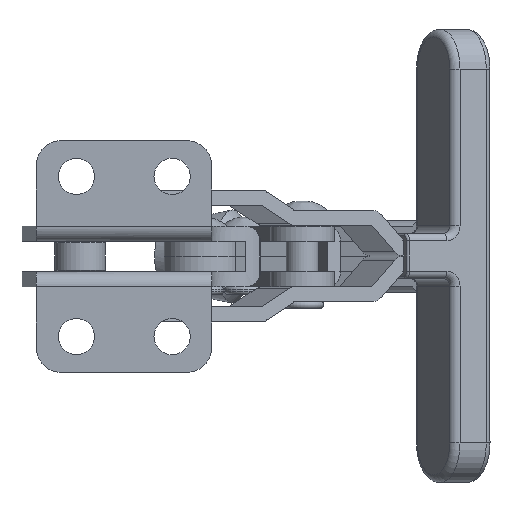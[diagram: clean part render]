
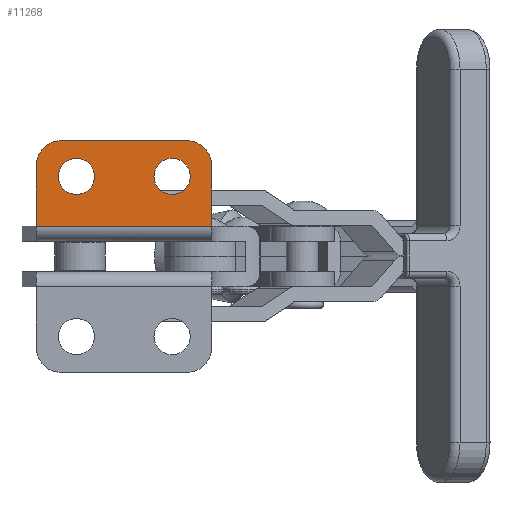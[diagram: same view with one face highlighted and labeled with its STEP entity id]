
A CAD part, front view. The second image highlights one B-rep face of the part: STEP entity #11268.
In plain terms, the highlighted planar face has unit normal (0, -1, 0).
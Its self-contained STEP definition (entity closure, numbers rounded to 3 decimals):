
#764=FACE_BOUND('',#1775,.T.);
#765=FACE_BOUND('',#1776,.T.);
#843=PLANE('',#12152);
#1138=FACE_OUTER_BOUND('',#1774,.T.);
#1774=EDGE_LOOP('',(#7796,#7797,#7798,#7799,#7800,#7801));
#1775=EDGE_LOOP('',(#7802,#7803));
#1776=EDGE_LOOP('',(#7804,#7805));
#2489=LINE('',#15814,#3451);
#2499=LINE('',#15837,#3461);
#2502=LINE('',#15842,#3464);
#2503=LINE('',#15846,#3465);
#3451=VECTOR('',#13110,1000.);
#3461=VECTOR('',#13138,1000.);
#3464=VECTOR('',#13143,1000.);
#3465=VECTOR('',#13146,1000.);
#4377=CIRCLE('',#12080,3.6);
#4378=CIRCLE('',#12081,3.6);
#4381=CIRCLE('',#12085,3.6);
#4382=CIRCLE('',#12086,3.6);
#4428=CIRCLE('',#12153,5.);
#4429=CIRCLE('',#12154,5.);
#4731=VERTEX_POINT('',#15593);
#4732=VERTEX_POINT('',#15594);
#4735=VERTEX_POINT('',#15603);
#4736=VERTEX_POINT('',#15604);
#4815=VERTEX_POINT('',#15812);
#4816=VERTEX_POINT('',#15813);
#4819=VERTEX_POINT('',#15834);
#4820=VERTEX_POINT('',#15836);
#4822=VERTEX_POINT('',#15843);
#4823=VERTEX_POINT('',#15845);
#5898=EDGE_CURVE('',#4731,#4732,#4377,.T.);
#5899=EDGE_CURVE('',#4732,#4731,#4378,.T.);
#5903=EDGE_CURVE('',#4735,#4736,#4381,.T.);
#5904=EDGE_CURVE('',#4736,#4735,#4382,.T.);
#5994=EDGE_CURVE('',#4815,#4816,#2489,.T.);
#6006=EDGE_CURVE('',#4820,#4819,#2499,.T.);
#6009=EDGE_CURVE('',#4819,#4816,#2502,.T.);
#6010=EDGE_CURVE('',#4815,#4822,#4428,.T.);
#6011=EDGE_CURVE('',#4823,#4822,#2503,.T.);
#6012=EDGE_CURVE('',#4823,#4820,#4429,.T.);
#7796=ORIENTED_EDGE('',*,*,#6006,.T.);
#7797=ORIENTED_EDGE('',*,*,#6009,.T.);
#7798=ORIENTED_EDGE('',*,*,#5994,.F.);
#7799=ORIENTED_EDGE('',*,*,#6010,.T.);
#7800=ORIENTED_EDGE('',*,*,#6011,.F.);
#7801=ORIENTED_EDGE('',*,*,#6012,.T.);
#7802=ORIENTED_EDGE('',*,*,#5903,.T.);
#7803=ORIENTED_EDGE('',*,*,#5904,.T.);
#7804=ORIENTED_EDGE('',*,*,#5898,.T.);
#7805=ORIENTED_EDGE('',*,*,#5899,.T.);
#11268=ADVANCED_FACE('',(#1138,#764,#765),#843,.F.);
#12080=AXIS2_PLACEMENT_3D('',#15595,#12942,#12943);
#12081=AXIS2_PLACEMENT_3D('',#15596,#12944,#12945);
#12085=AXIS2_PLACEMENT_3D('',#15605,#12953,#12954);
#12086=AXIS2_PLACEMENT_3D('',#15606,#12955,#12956);
#12152=AXIS2_PLACEMENT_3D('',#15841,#13141,#13142);
#12153=AXIS2_PLACEMENT_3D('',#15844,#13144,#13145);
#12154=AXIS2_PLACEMENT_3D('',#15847,#13147,#13148);
#12942=DIRECTION('center_axis',(0.,1.,0.));
#12943=DIRECTION('ref_axis',(-1.,0.,0.));
#12944=DIRECTION('center_axis',(0.,1.,0.));
#12945=DIRECTION('ref_axis',(-1.,0.,0.));
#12953=DIRECTION('center_axis',(0.,1.,0.));
#12954=DIRECTION('ref_axis',(-1.,0.,0.));
#12955=DIRECTION('center_axis',(0.,1.,0.));
#12956=DIRECTION('ref_axis',(-1.,0.,0.));
#13110=DIRECTION('',(0.,0.,-1.));
#13138=DIRECTION('',(0.,0.,-1.));
#13141=DIRECTION('center_axis',(0.,1.,0.));
#13142=DIRECTION('ref_axis',(-1.,0.,0.));
#13143=DIRECTION('',(1.,0.,0.));
#13144=DIRECTION('center_axis',(0.,-1.,0.));
#13145=DIRECTION('ref_axis',(-1.,0.,0.));
#13146=DIRECTION('',(1.,0.,0.));
#13147=DIRECTION('center_axis',(0.,-1.,0.));
#13148=DIRECTION('ref_axis',(-1.,0.,0.));
#15593=CARTESIAN_POINT('',(-30.5,0.,21.9));
#15594=CARTESIAN_POINT('',(-23.3,0.,21.9));
#15595=CARTESIAN_POINT('Origin',(-26.9,0.,21.9));
#15596=CARTESIAN_POINT('Origin',(-26.9,0.,21.9));
#15603=CARTESIAN_POINT('',(-11.5,0.,21.9));
#15604=CARTESIAN_POINT('',(-4.3,0.,21.9));
#15605=CARTESIAN_POINT('Origin',(-7.9,0.,21.9));
#15606=CARTESIAN_POINT('Origin',(-7.9,0.,21.9));
#15812=CARTESIAN_POINT('',(0.,0.,24.));
#15813=CARTESIAN_POINT('',(0.,0.,12.));
#15814=CARTESIAN_POINT('',(0.,0.,12.));
#15834=CARTESIAN_POINT('',(-34.9,0.,12.));
#15836=CARTESIAN_POINT('',(-34.9,0.,24.));
#15837=CARTESIAN_POINT('',(-34.9,0.,12.));
#15841=CARTESIAN_POINT('Origin',(0.,0.,12.));
#15842=CARTESIAN_POINT('',(0.,0.,12.));
#15843=CARTESIAN_POINT('',(-5.,0.,29.));
#15844=CARTESIAN_POINT('Origin',(-5.,0.,24.));
#15845=CARTESIAN_POINT('',(-29.9,0.,29.));
#15846=CARTESIAN_POINT('',(-34.9,0.,29.));
#15847=CARTESIAN_POINT('Origin',(-29.9,0.,24.));
